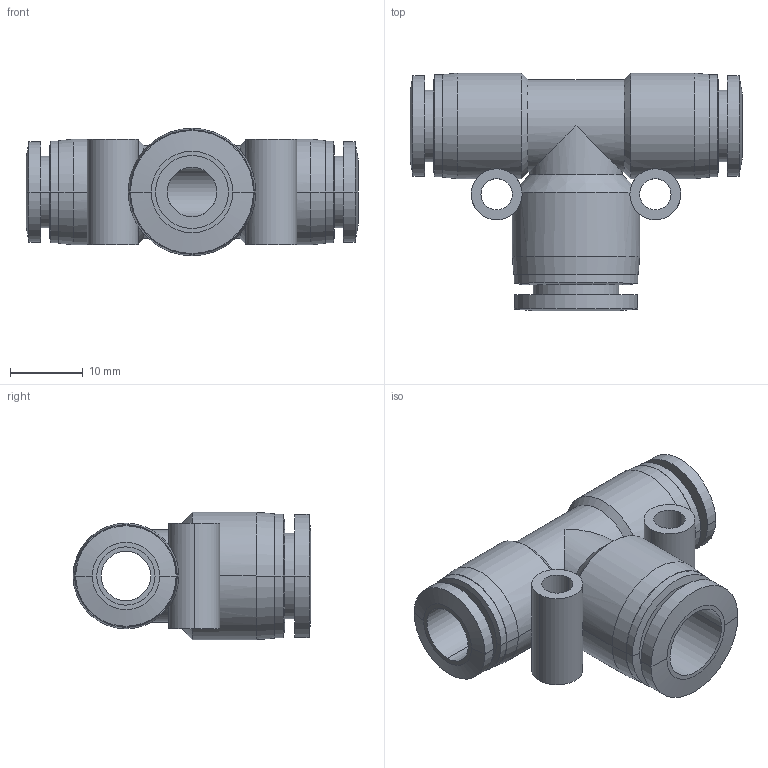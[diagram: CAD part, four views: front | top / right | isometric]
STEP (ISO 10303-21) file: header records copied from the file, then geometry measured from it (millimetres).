
FILE_DESCRIPTION (( 'STEP AP203' ), '1' );
FILE_NAME ('FRT10-08.STEP', '2020-05-12T19:25:02', ( '' ), ( '' ), 'SwSTEP 2.0', 'SolidWorks 2019', '' );
FILE_SCHEMA (( 'CONFIG_CONTROL_DESIGN' ));
Length unit declared in the file: millimetre
Products named in the file (1): FRT10-08
Bounding box: 45.6 x 32.65 x 17.5 mm (x, y, z)
Volume: 7614.9 mm3; surface area: 6433 mm2
Topology: 1 solids, 1 shells, 90 faces, 207 edges, 128 vertices
Faces by surface type: cylinder 47, cone 24, plane 19
Entity records: 3142 total; most frequent: CARTESIAN_POINT 966, DIRECTION 471, ORIENTED_EDGE 414, EDGE_CURVE 207, AXIS2_PLACEMENT_3D 197, VERTEX_POINT 128, EDGE_LOOP 111, CIRCLE 106
